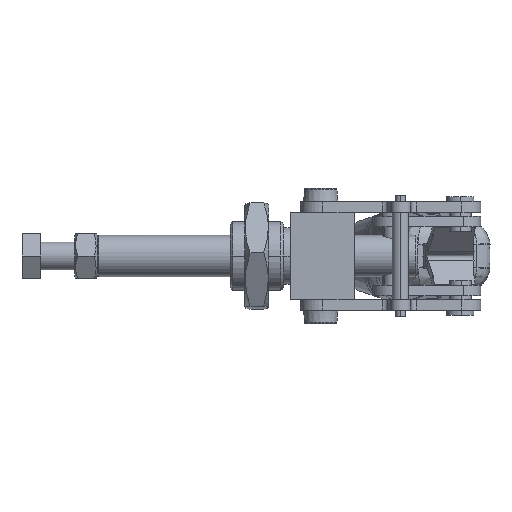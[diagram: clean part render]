
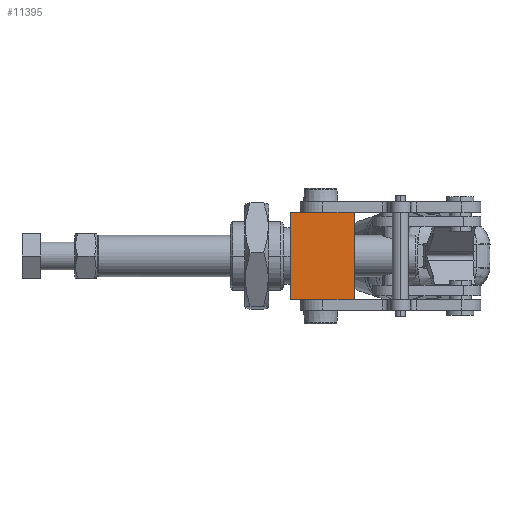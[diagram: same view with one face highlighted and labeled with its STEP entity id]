
A CAD part, front view. The second image highlights one B-rep face of the part: STEP entity #11395.
In plain terms, the highlighted planar face has unit normal (0, -1, 0) as drawn and (-1, 0, 0) by its records, which use the part's own axes.
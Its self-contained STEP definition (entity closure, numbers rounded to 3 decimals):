
#45 = DIRECTION ( 'NONE',  ( 0., 0., 1. ) ) ;
#1213 = CARTESIAN_POINT ( 'NONE',  ( -12.7, -9.25, -12.7 ) ) ;
#1363 = DIRECTION ( 'NONE',  ( 0., 0., 1. ) ) ;
#2451 = AXIS2_PLACEMENT_3D ( 'NONE', #21699, #11541, #1363 ) ;
#4382 = LINE ( 'NONE', #6025, #12890 ) ;
#5010 = VECTOR ( 'NONE', #14092, 1000. ) ;
#6025 = CARTESIAN_POINT ( 'NONE',  ( -12.7, -9.25, 12.7 ) ) ;
#6835 = CARTESIAN_POINT ( 'NONE',  ( -12.7, 9.25, -12.7 ) ) ;
#6917 = CARTESIAN_POINT ( 'NONE',  ( -12.7, 9.25, 12.7 ) ) ;
#7107 = EDGE_CURVE ( 'NONE', #17241, #8035, #8247, .T. ) ;
#7744 = DIRECTION ( 'NONE',  ( 0., 1., 0. ) ) ;
#8035 = VERTEX_POINT ( 'NONE', #8835 ) ;
#8058 = DIRECTION ( 'NONE',  ( 0., 0., 1. ) ) ;
#8117 = EDGE_CURVE ( 'NONE', #17241, #13414, #18552, .T. ) ;
#8247 = LINE ( 'NONE', #1213, #8781 ) ;
#8781 = VECTOR ( 'NONE', #8058, 1000. ) ;
#8835 = CARTESIAN_POINT ( 'NONE',  ( -12.7, -9.25, 12.7 ) ) ;
#9072 = ORIENTED_EDGE ( 'NONE', *, *, #8117, .F. ) ;
#9640 = EDGE_LOOP ( 'NONE', ( #9954, #9072, #19680, #14501 ) ) ;
#9954 = ORIENTED_EDGE ( 'NONE', *, *, #11228, .F. ) ;
#11053 = VECTOR ( 'NONE', #45, 1000. ) ;
#11228 = EDGE_CURVE ( 'NONE', #13414, #16174, #20070, .T. ) ;
#11395 = ADVANCED_FACE ( 'NONE', ( #15022 ), #13189, .T. ) ;
#11541 = DIRECTION ( 'NONE',  ( -1., 0., 0. ) ) ;
#12389 = CARTESIAN_POINT ( 'NONE',  ( -12.7, -9.25, -12.7 ) ) ;
#12890 = VECTOR ( 'NONE', #7744, 1000. ) ;
#13189 = PLANE ( 'NONE',  #2451 ) ;
#13414 = VERTEX_POINT ( 'NONE', #15151 ) ;
#14092 = DIRECTION ( 'NONE',  ( 0., 1., 0. ) ) ;
#14501 = ORIENTED_EDGE ( 'NONE', *, *, #19174, .T. ) ;
#15022 = FACE_OUTER_BOUND ( 'NONE', #9640, .T. ) ;
#15151 = CARTESIAN_POINT ( 'NONE',  ( -12.7, 9.25, -12.7 ) ) ;
#16174 = VERTEX_POINT ( 'NONE', #6917 ) ;
#17241 = VERTEX_POINT ( 'NONE', #19976 ) ;
#18552 = LINE ( 'NONE', #12389, #5010 ) ;
#19174 = EDGE_CURVE ( 'NONE', #8035, #16174, #4382, .T. ) ;
#19680 = ORIENTED_EDGE ( 'NONE', *, *, #7107, .T. ) ;
#19976 = CARTESIAN_POINT ( 'NONE',  ( -12.7, -9.25, -12.7 ) ) ;
#20070 = LINE ( 'NONE', #6835, #11053 ) ;
#21699 = CARTESIAN_POINT ( 'NONE',  ( -12.7, -9.25, -12.7 ) ) ;
